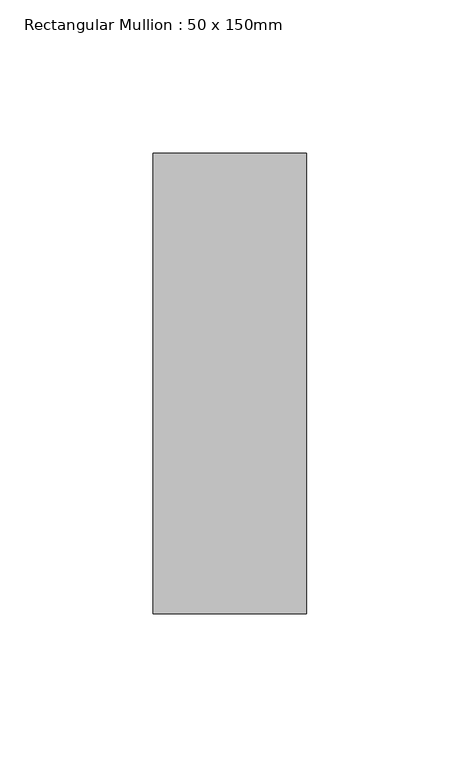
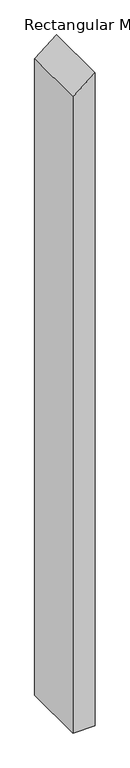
"""IFC4 building model written with IfcOpenShell, lengths in millimetres: member geometry, Rectangular Mullion : 50 x 150mm."""

from ifc_helpers import new_model, si_unit, frame, origin, place, context, project, spatial, polyline, outline, extrude, source, transform, mapped, element, save


def rectangular_mullion_50_x_150mm_d8150a25(model_context):
    return source(origin(), model_context, "Body", "SweptSolid", [
        extrude(outline(polyline([(0.0, 0.0), (-39.6147644, -50.0), (-1563.1692172, -50.0), (-1563.1692172, 0.0), (0.0, 0.0)])), frame((0.0, -75.0, 0.0), z_axis=(0.0, 1.0, 0.0), x_axis=(0.0, 0.0, 1.0)), (0.0, 0.0, 1.0), 150.0),
    ])


if __name__ == "__main__":
    model = new_model("IFC4")
    model_context = context("Model", 3, world=origin())
    ifc_project = project(units=[si_unit("LENGTHUNIT", "METRE", prefix="MILLI")], contexts=[model_context])
    site = spatial("IfcSite", under=ifc_project)
    building = spatial("IfcBuilding", under=site)
    placement = place(None, origin())
    rectangular_mullion_50_x_150mm_shape = rectangular_mullion_50_x_150mm_d8150a25(model_context)
    element("IfcMember", 1, ObjectType="Rectangular Mullion : 50 x 150mm", at=placement, inside=building, context=model_context, shape_type="MappedRepresentation", body=[
        mapped(rectangular_mullion_50_x_150mm_shape, transform((0.0, 0.0, 0.0), x_axis=(1.0, 0.0, 0.0), y_axis=(0.0, 1.0, 0.0), z_axis=(0.0, 0.0, 1.0))),
    ])
    save(model, "model.ifc")
